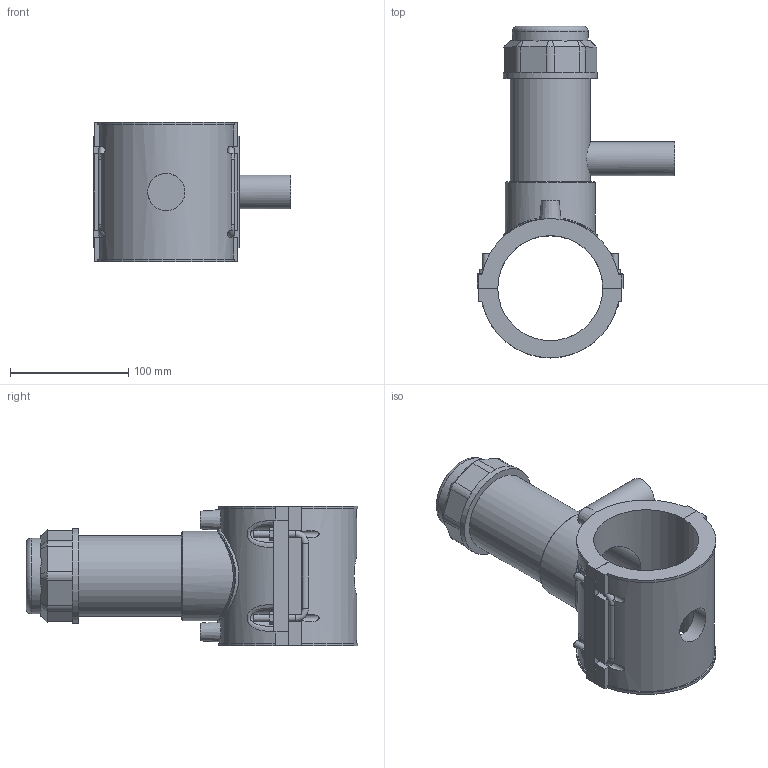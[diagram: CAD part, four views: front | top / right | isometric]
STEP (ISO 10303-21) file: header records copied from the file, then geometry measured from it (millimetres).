
FILE_DESCRIPTION(/* description */ ('PLASSON TAPPING SADDLE 3''''IPS x 1''''CTS'),/* implementation_level */ '2;1');
FILE_NAME(/* name */ 'C:\Dropbox\KIMPROJECTS-Inventor 2019\99-16-3568-Processing Inch\ASTM ElectroFusion 2021\5963B\5963BU03030010.ipt.stp',/* time_stamp */ '2021-08-30T09:56:27+03:00',/* author */ ('KIM'),/* organization */ (''),/* preprocessor_version */ 'ST-DEVELOPER v17.2',/* originating_system */ 'Autodesk Inventor 2019',/* authorisation */ '');
FILE_SCHEMA (('AUTOMOTIVE_DESIGN { 1 0 10303 214 3 1 1 }'));
Length unit declared in the file: millimetre
Products named in the file (1): 5963BU03030010
Bounding box: 166.35 x 280.2 x 118.11 mm (x, y, z)
Volume: 857413.4 mm3; surface area: 176496.7 mm2
Topology: 1 solids, 1 shells, 211 faces, 568 edges, 375 vertices
Faces by surface type: plane 128, cylinder 57, cone 15, bspline 6, torus 5
Full cylindrical faces by diameter (mm): 4 x2, 6 x7, 10 x2, 22.76 x1, 28.45 x1, 31.36 x1, 55.881 x1, 63.864 x1, 67.856 x1, 75.838 x1, 79.83 x1
Entity records: 8469 total; most frequent: CARTESIAN_POINT 3082, ORIENTED_EDGE 1158, DIRECTION 1055, EDGE_CURVE 579, VERTEX_POINT 375, AXIS2_PLACEMENT_3D 357, LINE 341, VECTOR 341
